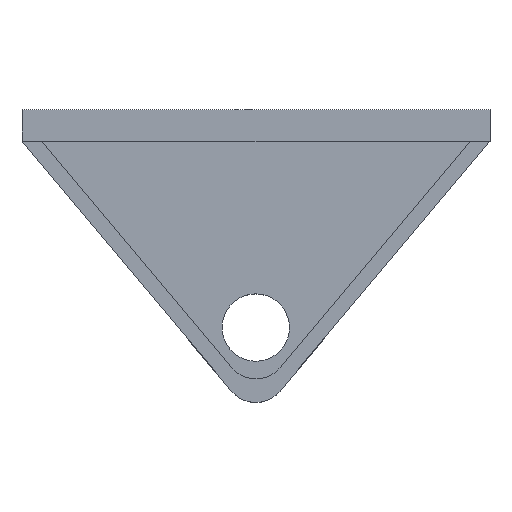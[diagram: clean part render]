
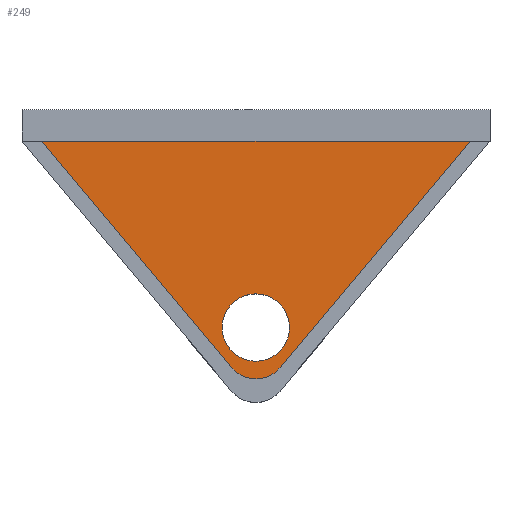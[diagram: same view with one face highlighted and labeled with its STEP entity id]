
A CAD part, top view. The second image highlights one B-rep face of the part: STEP entity #249.
In plain terms, the highlighted planar face has unit normal (0, 0, 1).
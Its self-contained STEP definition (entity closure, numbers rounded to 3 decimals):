
#10 = VECTOR ( 'NONE', #574, 1000. ) ;
#19 = AXIS2_PLACEMENT_3D ( 'NONE', #76, #473, #137 ) ;
#22 = DIRECTION ( 'NONE',  ( -1., 0., 0. ) ) ;
#23 = LINE ( 'NONE', #37, #312 ) ;
#32 = VERTEX_POINT ( 'NONE', #669 ) ;
#34 = DIRECTION ( 'NONE',  ( 0., 0., 1. ) ) ;
#37 = CARTESIAN_POINT ( 'NONE',  ( 15.861, 7.698, 6. ) ) ;
#48 = VERTEX_POINT ( 'NONE', #556 ) ;
#76 = CARTESIAN_POINT ( 'NONE',  ( -11.19, -15.8, 6. ) ) ;
#102 = ORIENTED_EDGE ( 'NONE', *, *, #551, .T. ) ;
#125 = VERTEX_POINT ( 'NONE', #555 ) ;
#137 = DIRECTION ( 'NONE',  ( 1., 0., 0. ) ) ;
#159 = FACE_BOUND ( 'NONE', #681, .T. ) ;
#170 = VERTEX_POINT ( 'NONE', #217 ) ;
#195 = FACE_OUTER_BOUND ( 'NONE', #632, .T. ) ;
#198 = DIRECTION ( 'NONE',  ( 1., 0., 0. ) ) ;
#203 = EDGE_CURVE ( 'NONE', #602, #428, #23, .T. ) ;
#214 = CARTESIAN_POINT ( 'NONE',  ( -11.19, -15.8, 6. ) ) ;
#217 = CARTESIAN_POINT ( 'NONE',  ( -6.94, -15.8, 6. ) ) ;
#231 = EDGE_CURVE ( 'NONE', #32, #170, #456, .T. ) ;
#241 = CARTESIAN_POINT ( 'NONE',  ( 15.861, 7.698, 6. ) ) ;
#249 = ADVANCED_FACE ( 'NONE', ( #159, #195 ), #701, .T. ) ;
#253 = DIRECTION ( 'NONE',  ( 0., 0., 1. ) ) ;
#263 = DIRECTION ( 'NONE',  ( 1., 0., 0. ) ) ;
#298 = CARTESIAN_POINT ( 'NONE',  ( -38.182, 7.698, 6. ) ) ;
#299 = CIRCLE ( 'NONE', #19, 4.25 ) ;
#312 = VECTOR ( 'NONE', #22, 1000. ) ;
#321 = LINE ( 'NONE', #298, #10 ) ;
#333 = ORIENTED_EDGE ( 'NONE', *, *, #203, .T. ) ;
#366 = CARTESIAN_POINT ( 'NONE',  ( 15.861, 7.698, 6. ) ) ;
#376 = CARTESIAN_POINT ( 'NONE',  ( 0., 0., 6. ) ) ;
#428 = VERTEX_POINT ( 'NONE', #722 ) ;
#456 = CIRCLE ( 'NONE', #543, 4.25 ) ;
#460 = VECTOR ( 'NONE', #560, 1000. ) ;
#472 = AXIS2_PLACEMENT_3D ( 'NONE', #578, #253, #637 ) ;
#473 = DIRECTION ( 'NONE',  ( 0., 0., 1. ) ) ;
#485 = AXIS2_PLACEMENT_3D ( 'NONE', #376, #34, #198 ) ;
#515 = CIRCLE ( 'NONE', #472, 4. ) ;
#537 = EDGE_CURVE ( 'NONE', #602, #48, #603, .T. ) ;
#543 = AXIS2_PLACEMENT_3D ( 'NONE', #214, #591, #263 ) ;
#551 = EDGE_CURVE ( 'NONE', #428, #125, #321, .T. ) ;
#555 = CARTESIAN_POINT ( 'NONE',  ( -14.233, -20.861, 6. ) ) ;
#556 = CARTESIAN_POINT ( 'NONE',  ( -8.104, -20.862, 6. ) ) ;
#560 = DIRECTION ( 'NONE',  ( -0.643, -0.766, 0. ) ) ;
#574 = DIRECTION ( 'NONE',  ( 0.643, -0.766, 0. ) ) ;
#576 = EDGE_CURVE ( 'NONE', #170, #32, #299, .T. ) ;
#578 = CARTESIAN_POINT ( 'NONE',  ( -11.168, -18.291, 6. ) ) ;
#591 = DIRECTION ( 'NONE',  ( 0., 0., 1. ) ) ;
#602 = VERTEX_POINT ( 'NONE', #366 ) ;
#603 = LINE ( 'NONE', #241, #460 ) ;
#610 = ORIENTED_EDGE ( 'NONE', *, *, #689, .T. ) ;
#632 = EDGE_LOOP ( 'NONE', ( #102, #610, #658, #333 ) ) ;
#637 = DIRECTION ( 'NONE',  ( 1., 0., 0. ) ) ;
#640 = ORIENTED_EDGE ( 'NONE', *, *, #576, .F. ) ;
#658 = ORIENTED_EDGE ( 'NONE', *, *, #537, .F. ) ;
#669 = CARTESIAN_POINT ( 'NONE',  ( -15.44, -15.8, 6. ) ) ;
#681 = EDGE_LOOP ( 'NONE', ( #724, #640 ) ) ;
#689 = EDGE_CURVE ( 'NONE', #125, #48, #515, .T. ) ;
#701 = PLANE ( 'NONE',  #485 ) ;
#722 = CARTESIAN_POINT ( 'NONE',  ( -38.182, 7.698, 6. ) ) ;
#724 = ORIENTED_EDGE ( 'NONE', *, *, #231, .F. ) ;
